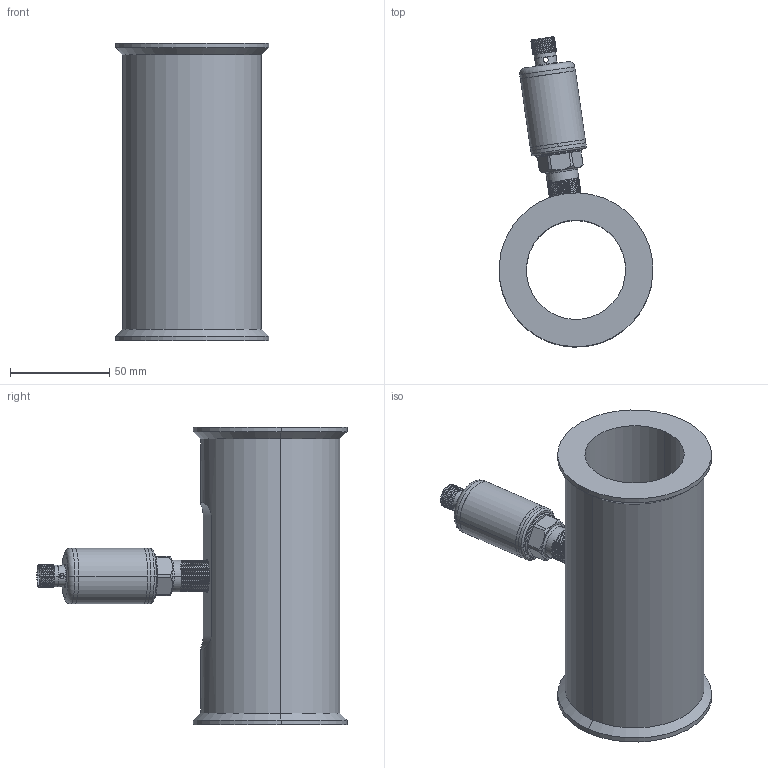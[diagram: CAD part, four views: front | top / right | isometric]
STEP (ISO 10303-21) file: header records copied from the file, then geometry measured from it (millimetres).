
FILE_DESCRIPTION (( 'STEP AP214' ), '1' );
FILE_NAME ('BFW1K50-J.STEP', '2026-05-27T10:00:12', ( '' ), ( '' ), 'SwSTEP 2.0', 'SolidWorks 2023', '' );
FILE_SCHEMA (( 'AUTOMOTIVE_DESIGN' ));
Length unit declared in the file: millimetre
Products named in the file (7): BFW1K50-J; 垫片; 连接管; DN50卡盘-华东; 壳体; 压力变送器; 探头
Assembly tree (6 placements, depth 3):
  BFW1K50-J
    压力变送器
      壳体
      垫片
      连接管
      探头
    DN50卡盘-华东
Bounding box: 77.46 x 156.17 x 150 mm (x, y, z)
Volume: 297545.7 mm3; surface area: 80159.5 mm2
Topology: 5 solids, 5 shells, 205 faces, 507 edges, 324 vertices
Faces by surface type: cylinder 124, cone 35, plane 34, torus 8, bspline 4
Entity records: 9896 total; most frequent: CARTESIAN_POINT 5080, ORIENTED_EDGE 1014, DIRECTION 941, EDGE_CURVE 507, AXIS2_PLACEMENT_3D 379, VERTEX_POINT 324, EDGE_LOOP 235, FACE_OUTER_BOUND 205
